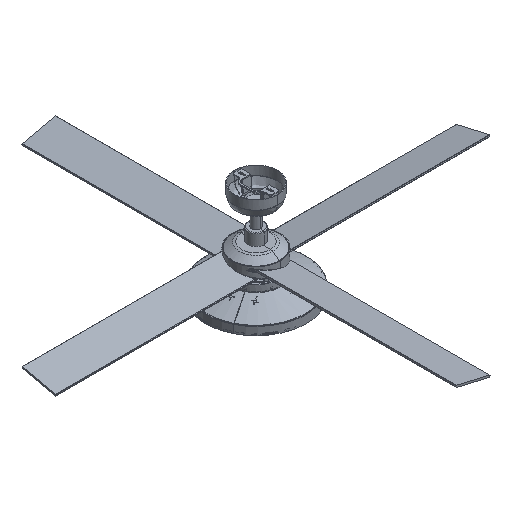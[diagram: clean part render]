
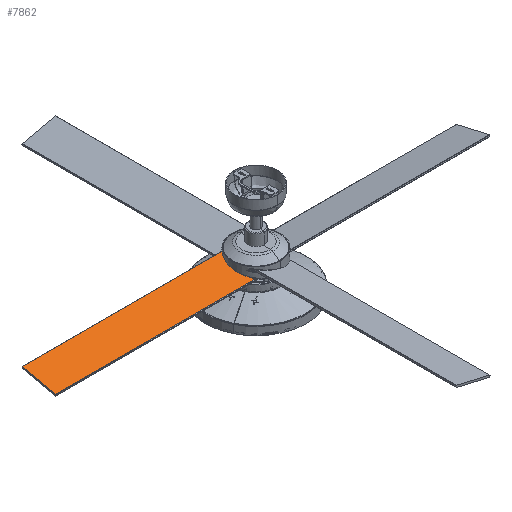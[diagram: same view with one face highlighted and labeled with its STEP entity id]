
A CAD part, isometric view. The second image highlights one B-rep face of the part: STEP entity #7862.
In plain terms, the highlighted planar face has unit normal (0, -0.225, 0.974).
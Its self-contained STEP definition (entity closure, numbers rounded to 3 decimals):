
#5520=FACE_BOUND('',#9436,.T.);
#5521=FACE_BOUND('',#9437,.T.);
#5522=FACE_BOUND('',#9438,.T.);
#5891=PLANE('',#28324);
#7862=ADVANCED_FACE('',(#8637,#5520,#5521,#5522),#5891,.T.);
#8637=FACE_OUTER_BOUND('',#9435,.T.);
#9435=EDGE_LOOP('',(#11238,#11239,#11240,#11241,#11242,#11243));
#9436=EDGE_LOOP('',(#11244,#11245));
#9437=EDGE_LOOP('',(#11246,#11247));
#9438=EDGE_LOOP('',(#11248,#11249));
#11238=ORIENTED_EDGE('',*,*,#15506,.T.);
#11239=ORIENTED_EDGE('',*,*,#15498,.F.);
#11240=ORIENTED_EDGE('',*,*,#15507,.T.);
#11241=ORIENTED_EDGE('',*,*,#15499,.T.);
#11242=ORIENTED_EDGE('',*,*,#15508,.T.);
#11243=ORIENTED_EDGE('',*,*,#15509,.T.);
#11244=ORIENTED_EDGE('',*,*,#15504,.T.);
#11245=ORIENTED_EDGE('',*,*,#15505,.T.);
#11246=ORIENTED_EDGE('',*,*,#15502,.T.);
#11247=ORIENTED_EDGE('',*,*,#15503,.T.);
#11248=ORIENTED_EDGE('',*,*,#15500,.T.);
#11249=ORIENTED_EDGE('',*,*,#15501,.T.);
#15498=EDGE_CURVE('',#24582,#24581,#21309,.T.);
#15499=EDGE_CURVE('',#24583,#24584,#18723,.T.);
#15500=EDGE_CURVE('',#24585,#24586,#18724,.T.);
#15501=EDGE_CURVE('',#24586,#24585,#18725,.T.);
#15502=EDGE_CURVE('',#24587,#24588,#18726,.T.);
#15503=EDGE_CURVE('',#24588,#24587,#18727,.T.);
#15504=EDGE_CURVE('',#24589,#24590,#18728,.T.);
#15505=EDGE_CURVE('',#24590,#24589,#18729,.T.);
#15506=EDGE_CURVE('',#24591,#24581,#21310,.T.);
#15507=EDGE_CURVE('',#24582,#24583,#21311,.T.);
#15508=EDGE_CURVE('',#24584,#24592,#21312,.T.);
#15509=EDGE_CURVE('',#24592,#24591,#21313,.T.);
#18723=TRIMMED_CURVE($,#19790,(#41429),(#41430),.T.,.CARTESIAN.);
#18724=TRIMMED_CURVE($,#19791,(#41432),(#41433),.T.,.CARTESIAN.);
#18725=TRIMMED_CURVE($,#19792,(#41435),(#41436),.T.,.CARTESIAN.);
#18726=TRIMMED_CURVE($,#19793,(#41438),(#41439),.T.,.CARTESIAN.);
#18727=TRIMMED_CURVE($,#19794,(#41441),(#41442),.T.,.CARTESIAN.);
#18728=TRIMMED_CURVE($,#19795,(#41444),(#41445),.T.,.CARTESIAN.);
#18729=TRIMMED_CURVE($,#19796,(#41447),(#41448),.T.,.CARTESIAN.);
#19790=CIRCLE('',#28325,53.78);
#19791=CIRCLE('',#28326,2.5);
#19792=CIRCLE('',#28327,2.5);
#19793=CIRCLE('',#28328,2.5);
#19794=CIRCLE('',#28329,2.5);
#19795=CIRCLE('',#28330,2.5);
#19796=CIRCLE('',#28331,2.5);
#21309=B_SPLINE_CURVE_WITH_KNOTS('',1,(#41426,#41427),.UNSPECIFIED.,.F.,
 .F.,(2,2),(0.,630.),.UNSPECIFIED.);
#21310=B_SPLINE_CURVE_WITH_KNOTS('',1,(#41449,#41450),.UNSPECIFIED.,.F.,
 .F.,(2,2),(0.,103.),.UNSPECIFIED.);
#21311=B_SPLINE_CURVE_WITH_KNOTS('',1,(#41451,#41452),.UNSPECIFIED.,.F.,
 .F.,(2,2),(0.,6.315),.UNSPECIFIED.);
#21312=B_SPLINE_CURVE_WITH_KNOTS('',1,(#41453,#41454),.UNSPECIFIED.,.F.,
 .F.,(2,2),(0.,4.435),.UNSPECIFIED.);
#21313=B_SPLINE_CURVE_WITH_KNOTS('',1,(#41455,#41456),.UNSPECIFIED.,.F.,
 .F.,(2,2),(0.,630.),.UNSPECIFIED.);
#24581=VERTEX_POINT('',#41414);
#24582=VERTEX_POINT('',#41415);
#24583=VERTEX_POINT('',#41416);
#24584=VERTEX_POINT('',#41417);
#24585=VERTEX_POINT('',#41418);
#24586=VERTEX_POINT('',#41419);
#24587=VERTEX_POINT('',#41420);
#24588=VERTEX_POINT('',#41421);
#24589=VERTEX_POINT('',#41422);
#24590=VERTEX_POINT('',#41423);
#24591=VERTEX_POINT('',#41424);
#24592=VERTEX_POINT('',#41425);
#28324=AXIS2_PLACEMENT_3D('',#41413,#30422,$);
#28325=AXIS2_PLACEMENT_3D($,#41428,#30423,#30424);
#28326=AXIS2_PLACEMENT_3D($,#41431,#30425,#30426);
#28327=AXIS2_PLACEMENT_3D($,#41434,#30427,#30428);
#28328=AXIS2_PLACEMENT_3D($,#41437,#30429,#30430);
#28329=AXIS2_PLACEMENT_3D($,#41440,#30431,#30432);
#28330=AXIS2_PLACEMENT_3D($,#41443,#30433,#30434);
#28331=AXIS2_PLACEMENT_3D($,#41446,#30435,#30436);
#30422=DIRECTION('',(0.,-0.225,0.974));
#30423=DIRECTION('',(0.,0.225,-0.974));
#30424=DIRECTION('',(-0.514,-0.836,-0.193));
#30425=DIRECTION('',(0.,0.225,-0.974));
#30426=DIRECTION('',(0.,0.974,0.225));
#30427=DIRECTION('',(0.,0.225,-0.974));
#30428=DIRECTION('',(0.,-0.974,-0.225));
#30429=DIRECTION('',(0.,0.225,-0.974));
#30430=DIRECTION('',(0.,0.974,0.225));
#30431=DIRECTION('',(0.,0.225,-0.974));
#30432=DIRECTION('',(0.,-0.974,-0.225));
#30433=DIRECTION('',(0.,0.225,-0.974));
#30434=DIRECTION('',(0.,0.974,0.225));
#30435=DIRECTION('',(0.,0.225,-0.974));
#30436=DIRECTION('',(0.,-0.974,-0.225));
#41413=CARTESIAN_POINT('',(5975.196,-7945.666,54.755));
#41414=CARTESIAN_POINT('',(6038.316,-7935.489,57.105));
#41415=CARTESIAN_POINT('',(6668.316,-7935.489,57.105));
#41416=CARTESIAN_POINT('',(6668.316,-7929.337,58.525));
#41417=CARTESIAN_POINT('',(6668.316,-7839.451,79.277));
#41418=CARTESIAN_POINT('',(6651.031,-7836.576,79.941));
#41419=CARTESIAN_POINT('',(6651.031,-7841.448,78.816));
#41420=CARTESIAN_POINT('',(6631.305,-7881.699,69.523));
#41421=CARTESIAN_POINT('',(6631.305,-7886.571,68.398));
#41422=CARTESIAN_POINT('',(6651.154,-7926.697,59.135));
#41423=CARTESIAN_POINT('',(6651.154,-7931.569,58.01));
#41424=CARTESIAN_POINT('',(6038.316,-7835.129,80.275));
#41425=CARTESIAN_POINT('',(6668.316,-7835.129,80.275));
#41426=CARTESIAN_POINT('',(6668.316,-7935.489,57.105));
#41427=CARTESIAN_POINT('',(6038.316,-7935.489,57.105));
#41428=CARTESIAN_POINT('',(6695.972,-7884.394,68.901));
#41429=CARTESIAN_POINT('',(6668.316,-7929.337,58.525));
#41430=CARTESIAN_POINT('',(6668.316,-7839.451,79.277));
#41431=CARTESIAN_POINT('',(6651.031,-7839.012,79.378));
#41432=CARTESIAN_POINT('',(6651.031,-7836.576,79.941));
#41433=CARTESIAN_POINT('',(6651.031,-7841.448,78.816));
#41434=CARTESIAN_POINT('',(6651.031,-7839.012,79.378));
#41435=CARTESIAN_POINT('',(6651.031,-7841.448,78.816));
#41436=CARTESIAN_POINT('',(6651.031,-7836.576,79.941));
#41437=CARTESIAN_POINT('',(6631.305,-7884.135,68.961));
#41438=CARTESIAN_POINT('',(6631.305,-7881.699,69.523));
#41439=CARTESIAN_POINT('',(6631.305,-7886.571,68.398));
#41440=CARTESIAN_POINT('',(6631.305,-7884.135,68.961));
#41441=CARTESIAN_POINT('',(6631.305,-7886.571,68.398));
#41442=CARTESIAN_POINT('',(6631.305,-7881.699,69.523));
#41443=CARTESIAN_POINT('',(6651.154,-7929.133,58.572));
#41444=CARTESIAN_POINT('',(6651.154,-7926.697,59.135));
#41445=CARTESIAN_POINT('',(6651.154,-7931.569,58.01));
#41446=CARTESIAN_POINT('',(6651.154,-7929.133,58.572));
#41447=CARTESIAN_POINT('',(6651.154,-7931.569,58.01));
#41448=CARTESIAN_POINT('',(6651.154,-7926.697,59.135));
#41449=CARTESIAN_POINT('',(6038.316,-7835.129,80.275));
#41450=CARTESIAN_POINT('',(6038.316,-7935.489,57.105));
#41451=CARTESIAN_POINT('',(6668.316,-7935.489,57.105));
#41452=CARTESIAN_POINT('',(6668.316,-7929.337,58.525));
#41453=CARTESIAN_POINT('',(6668.316,-7839.451,79.277));
#41454=CARTESIAN_POINT('',(6668.316,-7835.129,80.275));
#41455=CARTESIAN_POINT('',(6668.316,-7835.129,80.275));
#41456=CARTESIAN_POINT('',(6038.316,-7835.129,80.275));
